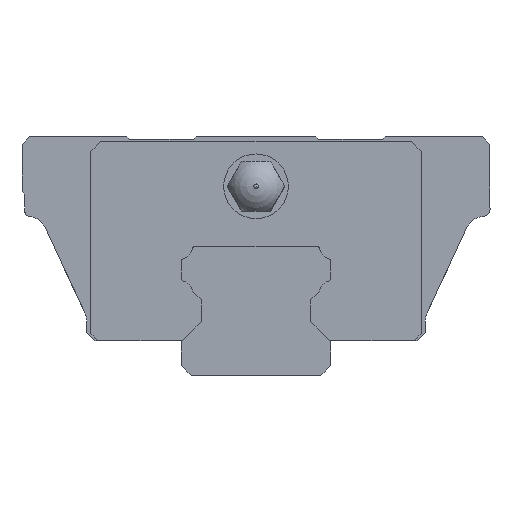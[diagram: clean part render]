
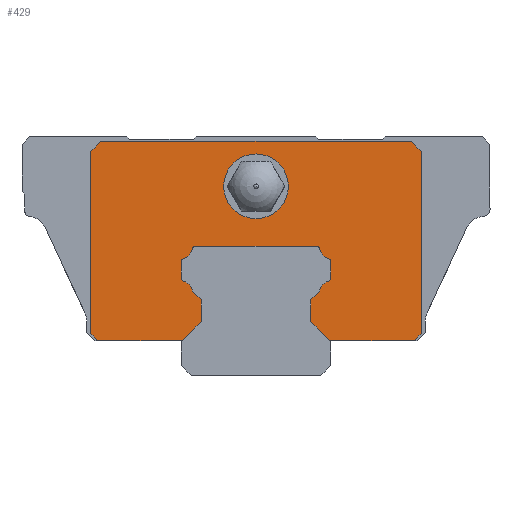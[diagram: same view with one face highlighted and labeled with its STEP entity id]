
A CAD part, front view. The second image highlights one B-rep face of the part: STEP entity #429.
In plain terms, the highlighted planar face has unit normal (0, -1, 0).
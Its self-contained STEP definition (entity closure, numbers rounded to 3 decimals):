
#129=FACE_BOUND('',#800,.T.);
#130=FACE_BOUND('',#801,.T.);
#276=PLANE('',#3412);
#429=ADVANCED_FACE('',(#129,#130),#276,.T.);
#800=EDGE_LOOP('',(#1563,#1564,#1565,#1566,#1567,#1568,#1569,#1570,#1571,#1572,#1573,#1574,#1575,#1576,#1577,#1578,#1579,#1580,#1581,#1582,#1583,#1584,#1585,#1586,#1587,#1588,#1589,#1590));
#801=EDGE_LOOP('',(#1591));
#947=CIRCLE('',#3329,1.4);
#949=CIRCLE('',#3332,0.3);
#951=CIRCLE('',#3336,0.3);
#953=CIRCLE('',#3339,1.4);
#955=CIRCLE('',#3342,0.3);
#957=CIRCLE('',#3346,0.3);
#959=CIRCLE('',#3349,1.4);
#961=CIRCLE('',#3352,0.3);
#963=CIRCLE('',#3356,0.3);
#965=CIRCLE('',#3359,1.4);
#980=CIRCLE('',#3410,3.25);
#1563=ORIENTED_EDGE('',*,*,#2388,.F.);
#1564=ORIENTED_EDGE('',*,*,#2391,.F.);
#1565=ORIENTED_EDGE('',*,*,#2394,.F.);
#1566=ORIENTED_EDGE('',*,*,#2397,.F.);
#1567=ORIENTED_EDGE('',*,*,#2400,.F.);
#1568=ORIENTED_EDGE('',*,*,#2403,.F.);
#1569=ORIENTED_EDGE('',*,*,#2406,.F.);
#1570=ORIENTED_EDGE('',*,*,#2409,.F.);
#1571=ORIENTED_EDGE('',*,*,#2412,.F.);
#1572=ORIENTED_EDGE('',*,*,#2415,.F.);
#1573=ORIENTED_EDGE('',*,*,#2418,.F.);
#1574=ORIENTED_EDGE('',*,*,#2421,.F.);
#1575=ORIENTED_EDGE('',*,*,#2424,.F.);
#1576=ORIENTED_EDGE('',*,*,#2427,.F.);
#1577=ORIENTED_EDGE('',*,*,#2430,.F.);
#1578=ORIENTED_EDGE('',*,*,#2433,.F.);
#1579=ORIENTED_EDGE('',*,*,#2436,.F.);
#1580=ORIENTED_EDGE('',*,*,#2439,.F.);
#1581=ORIENTED_EDGE('',*,*,#2441,.F.);
#1582=ORIENTED_EDGE('',*,*,#2315,.T.);
#1583=ORIENTED_EDGE('',*,*,#2504,.T.);
#1584=ORIENTED_EDGE('',*,*,#2507,.T.);
#1585=ORIENTED_EDGE('',*,*,#2509,.T.);
#1586=ORIENTED_EDGE('',*,*,#2511,.T.);
#1587=ORIENTED_EDGE('',*,*,#2513,.T.);
#1588=ORIENTED_EDGE('',*,*,#2516,.T.);
#1589=ORIENTED_EDGE('',*,*,#2517,.T.);
#1590=ORIENTED_EDGE('',*,*,#2273,.T.);
#1591=ORIENTED_EDGE('',*,*,#2519,.F.);
#1955=VERTEX_POINT('',#4571);
#1956=VERTEX_POINT('',#4573);
#1989=VERTEX_POINT('',#4679);
#1990=VERTEX_POINT('',#4681);
#2038=VERTEX_POINT('',#4833);
#2040=VERTEX_POINT('',#4839);
#2042=VERTEX_POINT('',#4845);
#2044=VERTEX_POINT('',#4851);
#2046=VERTEX_POINT('',#4857);
#2048=VERTEX_POINT('',#4863);
#2050=VERTEX_POINT('',#4869);
#2052=VERTEX_POINT('',#4875);
#2054=VERTEX_POINT('',#4881);
#2056=VERTEX_POINT('',#4887);
#2058=VERTEX_POINT('',#4893);
#2060=VERTEX_POINT('',#4899);
#2062=VERTEX_POINT('',#4905);
#2064=VERTEX_POINT('',#4911);
#2066=VERTEX_POINT('',#4917);
#2068=VERTEX_POINT('',#4923);
#2070=VERTEX_POINT('',#4929);
#2072=VERTEX_POINT('',#4935);
#2111=VERTEX_POINT('',#5066);
#2113=VERTEX_POINT('',#5072);
#2114=VERTEX_POINT('',#5076);
#2115=VERTEX_POINT('',#5080);
#2116=VERTEX_POINT('',#5084);
#2118=VERTEX_POINT('',#5090);
#2120=VERTEX_POINT('',#5098);
#2273=EDGE_CURVE('',#1956,#1955,#2691,.T.);
#2315=EDGE_CURVE('',#1990,#1989,#2719,.T.);
#2388=EDGE_CURVE('',#2038,#1955,#2770,.T.);
#2391=EDGE_CURVE('',#2040,#2038,#2773,.T.);
#2394=EDGE_CURVE('',#2042,#2040,#2776,.T.);
#2397=EDGE_CURVE('',#2044,#2042,#947,.T.);
#2400=EDGE_CURVE('',#2046,#2044,#949,.T.);
#2403=EDGE_CURVE('',#2048,#2046,#2781,.T.);
#2406=EDGE_CURVE('',#2050,#2048,#951,.T.);
#2409=EDGE_CURVE('',#2052,#2050,#953,.T.);
#2412=EDGE_CURVE('',#2054,#2052,#955,.T.);
#2415=EDGE_CURVE('',#2056,#2054,#2787,.T.);
#2418=EDGE_CURVE('',#2058,#2056,#957,.T.);
#2421=EDGE_CURVE('',#2060,#2058,#959,.T.);
#2424=EDGE_CURVE('',#2062,#2060,#961,.T.);
#2427=EDGE_CURVE('',#2064,#2062,#2793,.T.);
#2430=EDGE_CURVE('',#2066,#2064,#963,.T.);
#2433=EDGE_CURVE('',#2068,#2066,#965,.T.);
#2436=EDGE_CURVE('',#2070,#2068,#2798,.T.);
#2439=EDGE_CURVE('',#2072,#2070,#2801,.T.);
#2441=EDGE_CURVE('',#1990,#2072,#2803,.T.);
#2504=EDGE_CURVE('',#1989,#2111,#2856,.T.);
#2507=EDGE_CURVE('',#2111,#2113,#2858,.T.);
#2509=EDGE_CURVE('',#2113,#2114,#2860,.T.);
#2511=EDGE_CURVE('',#2114,#2115,#2862,.T.);
#2513=EDGE_CURVE('',#2115,#2116,#2864,.T.);
#2516=EDGE_CURVE('',#2116,#2118,#2866,.T.);
#2517=EDGE_CURVE('',#2118,#1956,#2867,.T.);
#2519=EDGE_CURVE('',#2120,#2120,#980,.T.);
#2691=LINE('',#4572,#2977);
#2719=LINE('',#4680,#3005);
#2770=LINE('',#4834,#3056);
#2773=LINE('',#4840,#3059);
#2776=LINE('',#4846,#3062);
#2781=LINE('',#4864,#3067);
#2787=LINE('',#4888,#3073);
#2793=LINE('',#4912,#3079);
#2798=LINE('',#4930,#3084);
#2801=LINE('',#4936,#3087);
#2803=LINE('',#4939,#3089);
#2856=LINE('',#5067,#3142);
#2858=LINE('',#5073,#3144);
#2860=LINE('',#5077,#3146);
#2862=LINE('',#5081,#3148);
#2864=LINE('',#5085,#3150);
#2866=LINE('',#5091,#3152);
#2867=LINE('',#5093,#3153);
#2977=VECTOR('',#3634,1.);
#3005=VECTOR('',#3706,1.);
#3056=VECTOR('',#3837,1.);
#3059=VECTOR('',#3842,1.);
#3062=VECTOR('',#3847,1.);
#3067=VECTOR('',#3866,1.);
#3073=VECTOR('',#3892,1.);
#3079=VECTOR('',#3918,1.);
#3084=VECTOR('',#3937,1.);
#3087=VECTOR('',#3942,1.);
#3089=VECTOR('',#3946,1.);
#3142=VECTOR('',#4071,1.);
#3144=VECTOR('',#4077,1.);
#3146=VECTOR('',#4081,1.);
#3148=VECTOR('',#4085,1.);
#3150=VECTOR('',#4089,1.);
#3152=VECTOR('',#4095,1.);
#3153=VECTOR('',#4098,1.);
#3329=AXIS2_PLACEMENT_3D('',#4852,#3852,#3853);
#3332=AXIS2_PLACEMENT_3D('',#4858,#3859,#3860);
#3336=AXIS2_PLACEMENT_3D('',#4870,#3871,#3872);
#3339=AXIS2_PLACEMENT_3D('',#4876,#3878,#3879);
#3342=AXIS2_PLACEMENT_3D('',#4882,#3885,#3886);
#3346=AXIS2_PLACEMENT_3D('',#4894,#3897,#3898);
#3349=AXIS2_PLACEMENT_3D('',#4900,#3904,#3905);
#3352=AXIS2_PLACEMENT_3D('',#4906,#3911,#3912);
#3356=AXIS2_PLACEMENT_3D('',#4918,#3923,#3924);
#3359=AXIS2_PLACEMENT_3D('',#4924,#3930,#3931);
#3410=AXIS2_PLACEMENT_3D('',#5097,#4103,#4104);
#3412=AXIS2_PLACEMENT_3D('',#5100,#4107,#4108);
#3634=DIRECTION('',(1.,0.,0.));
#3706=DIRECTION('',(1.,0.,0.));
#3837=DIRECTION('',(-0.707,0.,-0.707));
#3842=DIRECTION('',(0.,0.,-1.));
#3847=DIRECTION('',(0.707,0.,-0.707));
#3852=DIRECTION('',(0.,1.,0.));
#3853=DIRECTION('',(0.,0.,-1.));
#3859=DIRECTION('',(0.,-1.,0.));
#3860=DIRECTION('',(0.,0.,-1.));
#3866=DIRECTION('',(0.,0.,-1.));
#3871=DIRECTION('',(0.,-1.,0.));
#3872=DIRECTION('',(0.,0.,-1.));
#3878=DIRECTION('',(0.,1.,0.));
#3879=DIRECTION('',(0.,0.,-1.));
#3885=DIRECTION('',(0.,-1.,0.));
#3886=DIRECTION('',(0.,0.,-1.));
#3892=DIRECTION('',(-1.,0.,0.));
#3897=DIRECTION('',(0.,-1.,0.));
#3898=DIRECTION('',(0.,0.,-1.));
#3904=DIRECTION('',(0.,1.,0.));
#3905=DIRECTION('',(0.,0.,-1.));
#3911=DIRECTION('',(0.,-1.,0.));
#3912=DIRECTION('',(0.,0.,-1.));
#3918=DIRECTION('',(0.,0.,1.));
#3923=DIRECTION('',(0.,-1.,0.));
#3924=DIRECTION('',(0.,0.,-1.));
#3930=DIRECTION('',(0.,1.,0.));
#3931=DIRECTION('',(0.,0.,-1.));
#3937=DIRECTION('',(0.707,0.,0.707));
#3942=DIRECTION('',(0.,0.,1.));
#3946=DIRECTION('',(-0.707,0.,0.707));
#4071=DIRECTION('',(0.707,0.,0.707));
#4077=DIRECTION('',(0.,0.,1.));
#4081=DIRECTION('',(-0.707,0.,0.707));
#4085=DIRECTION('',(-1.,0.,0.));
#4089=DIRECTION('',(-0.707,0.,-0.707));
#4095=DIRECTION('',(0.,0.,-1.));
#4098=DIRECTION('',(0.707,0.,-0.707));
#4103=DIRECTION('',(0.,-1.,0.));
#4104=DIRECTION('',(1.,0.,0.));
#4107=DIRECTION('',(0.,-1.,0.));
#4108=DIRECTION('',(0.,0.,-1.));
#4571=CARTESIAN_POINT('',(-7.4,0.,3.5));
#4572=CARTESIAN_POINT('',(-15.9,0.,3.5));
#4573=CARTESIAN_POINT('',(-15.9,0.,3.5));
#4679=CARTESIAN_POINT('',(15.9,0.,3.5));
#4680=CARTESIAN_POINT('',(-15.9,0.,3.5));
#4681=CARTESIAN_POINT('',(7.4,0.,3.5));
#4833=CARTESIAN_POINT('',(-5.5,0.,5.4));
#4834=CARTESIAN_POINT('',(4.05,0.,14.95));
#4839=CARTESIAN_POINT('',(-5.5,0.,7.6));
#4840=CARTESIAN_POINT('',(-5.5,0.,19.));
#4845=CARTESIAN_POINT('',(-6.376,0.,8.476));
#4846=CARTESIAN_POINT('',(-8.45,0.,10.55));
#4851=CARTESIAN_POINT('',(-7.295,0.,9.488));
#4852=CARTESIAN_POINT('',(-7.74,0.,8.16));
#4857=CARTESIAN_POINT('',(-7.5,0.,9.772));
#4858=CARTESIAN_POINT('',(-7.2,0.,9.772));
#4863=CARTESIAN_POINT('',(-7.5,0.,11.428));
#4864=CARTESIAN_POINT('',(-7.5,0.,19.));
#4869=CARTESIAN_POINT('',(-7.295,0.,11.712));
#4870=CARTESIAN_POINT('',(-7.2,0.,11.428));
#4875=CARTESIAN_POINT('',(-6.368,0.,12.76));
#4876=CARTESIAN_POINT('',(-7.74,0.,13.04));
#4881=CARTESIAN_POINT('',(-6.074,0.,13.));
#4882=CARTESIAN_POINT('',(-6.074,0.,12.7));
#4887=CARTESIAN_POINT('',(6.074,0.,13.));
#4888=CARTESIAN_POINT('',(0.,0.,13.));
#4893=CARTESIAN_POINT('',(6.368,0.,12.76));
#4894=CARTESIAN_POINT('',(6.074,0.,12.7));
#4899=CARTESIAN_POINT('',(7.295,0.,11.712));
#4900=CARTESIAN_POINT('',(7.74,0.,13.04));
#4905=CARTESIAN_POINT('',(7.5,0.,11.428));
#4906=CARTESIAN_POINT('',(7.2,0.,11.428));
#4911=CARTESIAN_POINT('',(7.5,0.,9.772));
#4912=CARTESIAN_POINT('',(7.5,0.,19.));
#4917=CARTESIAN_POINT('',(7.295,0.,9.488));
#4918=CARTESIAN_POINT('',(7.2,0.,9.772));
#4923=CARTESIAN_POINT('',(6.376,0.,8.476));
#4924=CARTESIAN_POINT('',(7.74,0.,8.16));
#4929=CARTESIAN_POINT('',(5.5,0.,7.6));
#4930=CARTESIAN_POINT('',(8.45,0.,10.55));
#4935=CARTESIAN_POINT('',(5.5,0.,5.4));
#4936=CARTESIAN_POINT('',(5.5,0.,19.));
#4939=CARTESIAN_POINT('',(-4.05,0.,14.95));
#5066=CARTESIAN_POINT('',(16.6,0.,4.2));
#5067=CARTESIAN_POINT('',(15.9,0.,3.5));
#5072=CARTESIAN_POINT('',(16.6,0.,22.5));
#5073=CARTESIAN_POINT('',(16.6,0.,4.2));
#5076=CARTESIAN_POINT('',(15.6,0.,23.5));
#5077=CARTESIAN_POINT('',(16.6,0.,22.5));
#5080=CARTESIAN_POINT('',(-15.6,0.,23.5));
#5081=CARTESIAN_POINT('',(15.6,0.,23.5));
#5084=CARTESIAN_POINT('',(-16.6,0.,22.5));
#5085=CARTESIAN_POINT('',(-15.6,0.,23.5));
#5090=CARTESIAN_POINT('',(-16.6,0.,4.2));
#5091=CARTESIAN_POINT('',(-16.6,0.,22.5));
#5093=CARTESIAN_POINT('',(-16.6,0.,4.2));
#5097=CARTESIAN_POINT('',(0.,0.,19.));
#5098=CARTESIAN_POINT('',(3.25,0.,19.));
#5100=CARTESIAN_POINT('',(0.,0.,19.));
